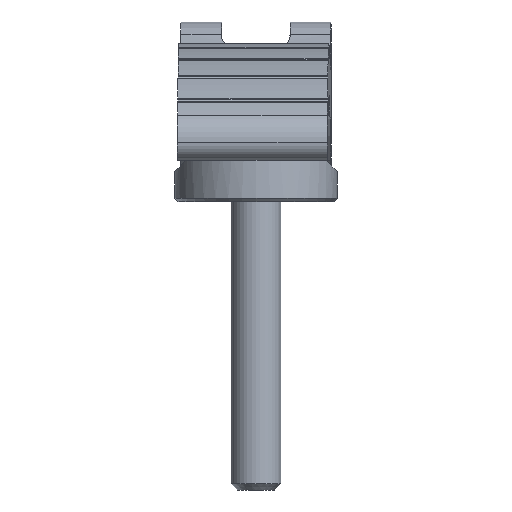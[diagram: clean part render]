
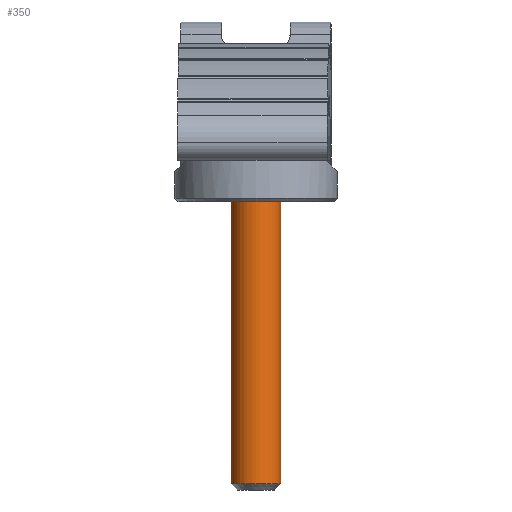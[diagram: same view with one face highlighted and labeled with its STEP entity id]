
A CAD part, left-side view. The second image highlights one B-rep face of the part: STEP entity #350.
In plain terms, the highlighted cylindrical face has radius 4 mm (diameter 8 mm), a full revolution.
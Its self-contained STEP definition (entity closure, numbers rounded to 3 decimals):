
#350=ADVANCED_FACE('',(#1155,#1157),#1159,.T.);
#1155=FACE_BOUND('',#1156,.T.);
#1156=EDGE_LOOP('',(#1581,#1582));
#1157=FACE_BOUND('',#1158,.T.);
#1158=EDGE_LOOP('',(#1583,#1584));
#1159=CYLINDRICAL_SURFACE('',#1160,4.);
#1160=AXIS2_PLACEMENT_3D('',#1161,#1162,#1163);
#1161=CARTESIAN_POINT('',(0.,0.,0.));
#1162=DIRECTION('',(-1.,0.,0.));
#1163=DIRECTION('',(0.,1.,0.));
#1581=ORIENTED_EDGE('',*,*,#1802,.T.);
#1582=ORIENTED_EDGE('',*,*,#1803,.T.);
#1583=ORIENTED_EDGE('',*,*,#1804,.T.);
#1584=ORIENTED_EDGE('',*,*,#1805,.T.);
#1802=EDGE_CURVE('',#2093,#2094,#2095,.T.);
#1803=EDGE_CURVE('',#2094,#2093,#2096,.T.);
#1804=EDGE_CURVE('',#2097,#2098,#2099,.T.);
#1805=EDGE_CURVE('',#2098,#2097,#2100,.T.);
#2093=VERTEX_POINT('',#4310);
#2094=VERTEX_POINT('',#4311);
#2095=CIRCLE('',#4312,4.);
#2096=CIRCLE('',#4316,4.);
#2097=VERTEX_POINT('',#4320);
#2098=VERTEX_POINT('',#4321);
#2099=CIRCLE('',#4322,4.);
#2100=CIRCLE('',#4326,4.);
#4310=CARTESIAN_POINT('',(-1.,4.,0.));
#4311=CARTESIAN_POINT('',(-1.,-4.,0.));
#4312=AXIS2_PLACEMENT_3D('',#4313,#4314,#4315);
#4313=CARTESIAN_POINT('',(-1.,0.,0.));
#4314=DIRECTION('',(-1.,0.,0.));
#4315=DIRECTION('',(0.,1.,0.));
#4316=AXIS2_PLACEMENT_3D('',#4317,#4318,#4319);
#4317=CARTESIAN_POINT('',(-1.,0.,0.));
#4318=DIRECTION('',(-1.,0.,0.));
#4319=DIRECTION('',(0.,-1.,0.));
#4320=CARTESIAN_POINT('',(-69.,4.,0.));
#4321=CARTESIAN_POINT('',(-69.,0.,4.));
#4322=AXIS2_PLACEMENT_3D('',#4323,#4324,#4325);
#4323=CARTESIAN_POINT('',(-69.,0.,0.));
#4324=DIRECTION('',(1.,0.,0.));
#4325=DIRECTION('',(0.,1.,0.));
#4326=AXIS2_PLACEMENT_3D('',#4327,#4328,#4329);
#4327=CARTESIAN_POINT('',(-69.,0.,0.));
#4328=DIRECTION('',(1.,0.,0.));
#4329=DIRECTION('',(0.,0.,1.));
